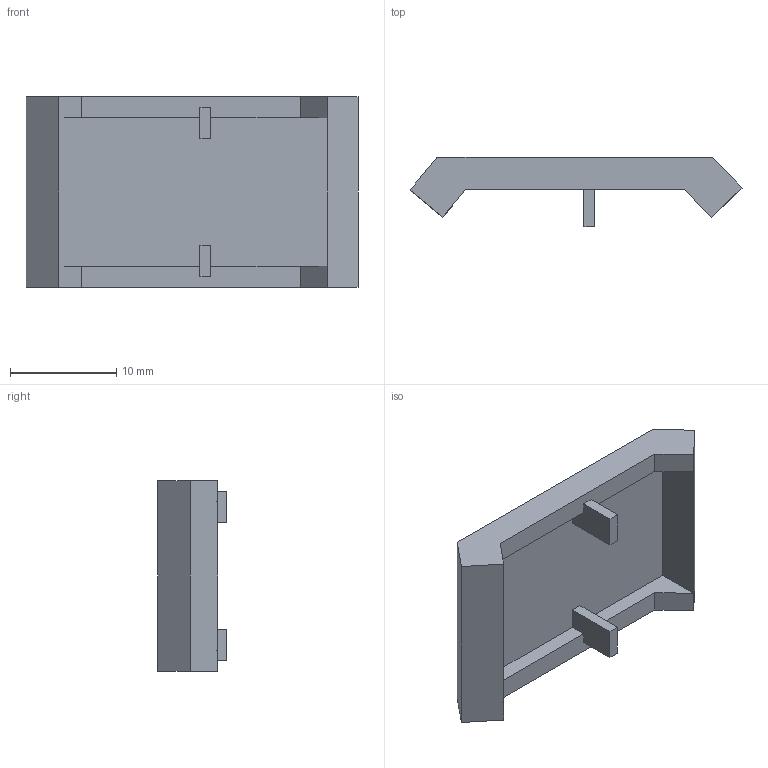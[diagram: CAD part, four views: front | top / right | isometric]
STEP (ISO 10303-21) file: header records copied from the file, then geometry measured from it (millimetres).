
FILE_DESCRIPTION (( 'STEP AP203' ), '1' );
FILE_NAME ('1033cap.STEP', '2016-04-09T13:21:15', ( '' ), ( '' ), 'SwSTEP 2.0', 'SolidWorks 2014', '' );
FILE_SCHEMA (( 'CONFIG_CONTROL_DESIGN' ));
Length unit declared in the file: millimetre
Products named in the file (1): 1033cap
Bounding box: 31.29 x 6.5 x 18 mm (x, y, z)
Volume: 1210.2 mm3; surface area: 1693.2 mm2
Topology: 1 solids, 1 shells, 30 faces, 80 edges, 52 vertices
Faces by surface type: plane 30
Entity records: 989 total; most frequent: CARTESIAN_POINT 163, ORIENTED_EDGE 160, DIRECTION 142, EDGE_CURVE 80, VECTOR 80, LINE 80, VERTEX_POINT 52, AXIS2_PLACEMENT_3D 31
